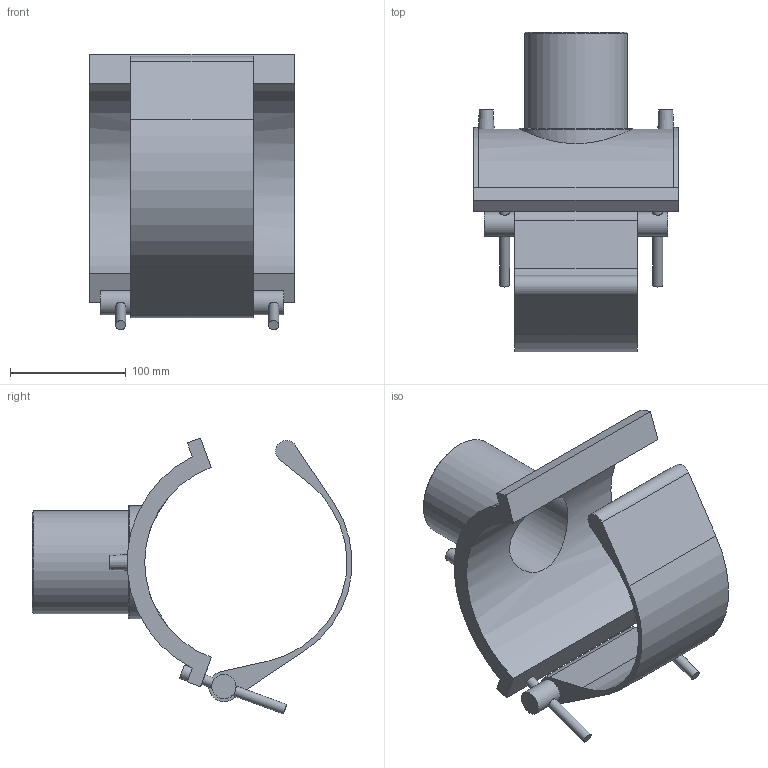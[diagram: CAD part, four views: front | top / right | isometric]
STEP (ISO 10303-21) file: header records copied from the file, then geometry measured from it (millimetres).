
FILE_DESCRIPTION(/* description */ ('PLASSON BRANCH SADDLE 6''''DIPS x 3''''IPS'),/* implementation_level */ '2;1');
FILE_NAME(/* name */ 'C:\Dropbox\KIMPROJECTS-Inventor 2019\99-16-3568-Processing Inch\ASTM ElectroFusion 2021\5958D (2)\5958DB03060030.ipt.stp',/* time_stamp */ '2021-08-30T09:54:16+03:00',/* author */ ('KIM'),/* organization */ (''),/* preprocessor_version */ 'ST-DEVELOPER v17.2',/* originating_system */ 'Autodesk Inventor 2019',/* authorisation */ '');
FILE_SCHEMA (('AUTOMOTIVE_DESIGN { 1 0 10303 214 3 1 1 }'));
Length unit declared in the file: inch
Products named in the file (1): 5958DB03060030
Bounding box: 176.02 x 275.69 x 238.01 mm (x, y, z)
Volume: 1062843.5 mm3; surface area: 223817.6 mm2
Topology: 1 solids, 1 shells, 58 faces, 132 edges, 92 vertices
Faces by surface type: plane 30, cylinder 24, cone 3, torus 1
Full cylindrical faces by diameter (mm): 4 x2, 8.725 x4, 10 x2, 12.215 x2, 20.94 x2, 70.96 x1, 88.7 x1
Entity records: 2048 total; most frequent: CARTESIAN_POINT 654, DIRECTION 283, ORIENTED_EDGE 264, EDGE_CURVE 132, AXIS2_PLACEMENT_3D 111, VERTEX_POINT 92, EDGE_LOOP 78, LINE 61
